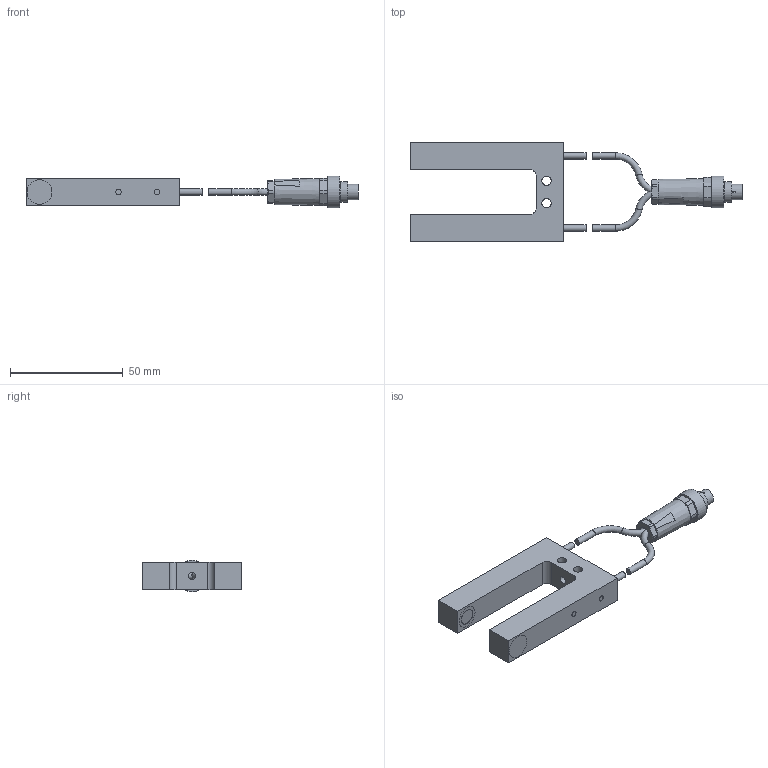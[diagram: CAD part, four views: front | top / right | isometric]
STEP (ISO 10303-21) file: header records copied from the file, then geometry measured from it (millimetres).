
FILE_DESCRIPTION(/* description */ (''),/* implementation_level */ '2;1');
FILE_NAME(/* name */ 'H:\ZVW\Inventor\E-Mail-Zeichnungen\STEP\HOMEPAGE\A-LAS-F12-...-20_50-C_0720_00.stp',/* time_stamp */ '2014-08-18T10:52:54+02:00',/* author */ ('TK-01'),/* organization */ (''),/* preprocessor_version */ 'ST-DEVELOPER v15.2',/* originating_system */ 'Autodesk Inventor 2014',/* authorisation */ '');
FILE_SCHEMA (('AUTOMOTIVE_DESIGN { 1 0 10303 214 3 1 1 }'));
Length unit declared in the file: millimetre
Products named in the file (1): Bauteil5
Bounding box: 147.1 x 44 x 14 mm (x, y, z)
Surface area: 36100.8 mm2
Topology: 8 solids, 12 shells, 158 faces, 336 edges, 220 vertices
Faces by surface type: plane 72, cylinder 59, cone 11, sphere 9, torus 5, bspline 2
Full cylindrical faces by diameter (mm): 0.5 x7, 2.5 x8, 2.8 x5, 2.9 x2, 3.2 x1, 4.1 x2, 5.5 x1, 6 x1, 6.8 x1, 7.1 x1, 7.15 x2, 7.5 x1, 8 x1, 9 x2, 10 x2, 14 x1
Entity records: 3898 total; most frequent: CARTESIAN_POINT 789, DIRECTION 686, ORIENTED_EDGE 508, AXIS2_PLACEMENT_3D 300, EDGE_CURVE 250, EDGE_LOOP 248, VERTEX_POINT 192, ADVANCED_FACE 158
